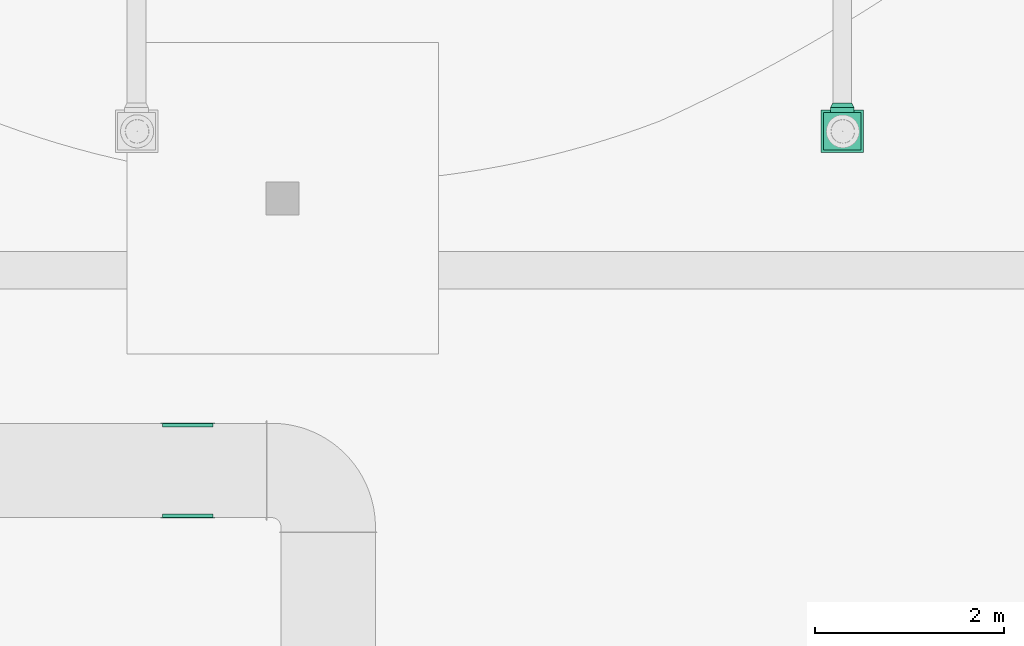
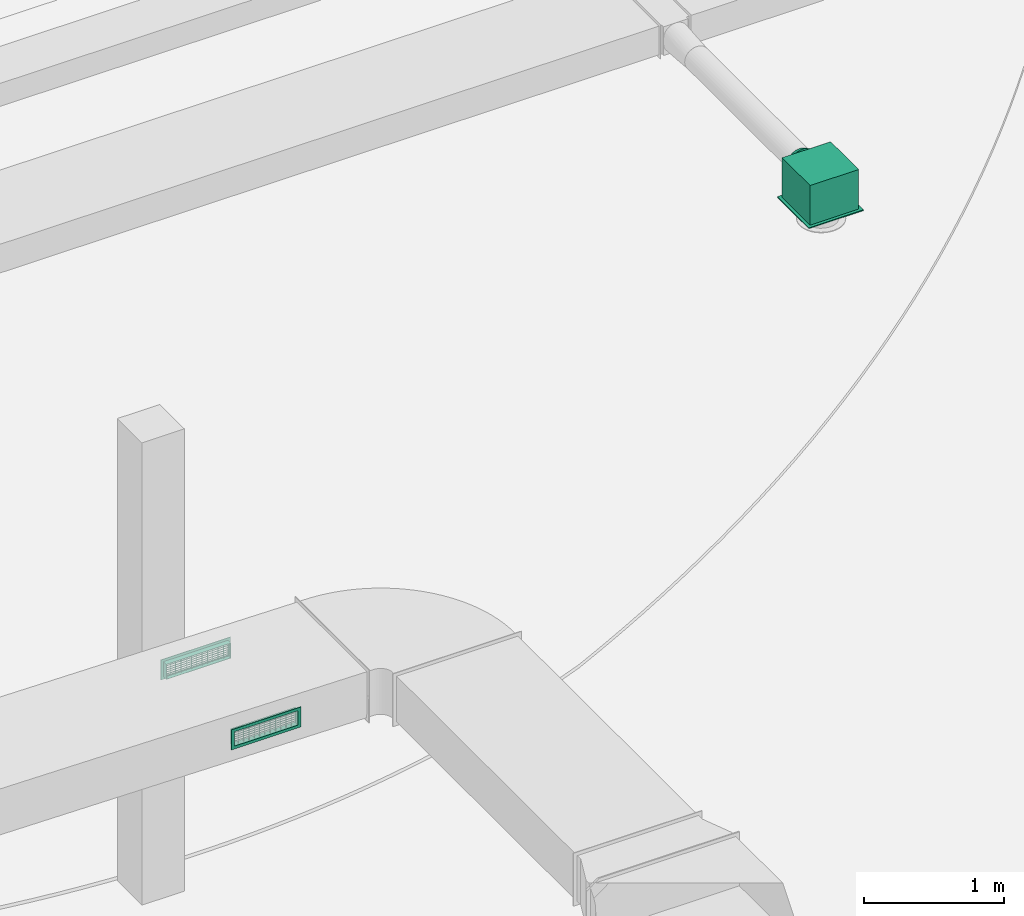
# One storey, part 273 of 302: 3 flow terminals, 1 flow fitting.
"""IFC2X3 building model written with IfcOpenShell, lengths in metres."""

import ifcopenshell
import ifcopenshell.guid

model = None  # the IFC model being written
_history = None  # IfcOwnerHistory: only IFC2X3 demands one
_inside = {}  # id of a spatial element -> (the spatial element, [elements in it])
_under = {}  # id of a project, library or spatial element -> (it, [spatial elements below it])
_declared = {}  # id of a project -> (the project, [libraries it declares])
_typed = {}  # id of a type object -> (the type object, [elements of that type])
_made_of = {}  # id of a material, layer set ... -> (it, [elements and type objects made of it])


def new_model(schema):
    """Start an empty IFC model of exactly this schema.

    Asked for "IFC4X3", IfcOpenShell would pick the latest addendum, in which some entities
    have other attributes; the version numbers below select the first issue.
    IFC2X3 requires an IfcOwnerHistory on every rooted entity: one is made here for all.
    """
    global model, _history
    if schema == "IFC4X3":
        model = ifcopenshell.file(schema_version=(4, 3, 0, 0))
    else:
        model = ifcopenshell.file(schema=schema)
    _inside.clear()
    _under.clear()
    _declared.clear()
    _typed.clear()
    _made_of.clear()
    _history = None
    if model.schema == "IFC2X3":
        org = make("IfcOrganization", Name="unknown")
        user = make(
            "IfcPersonAndOrganization",
            ThePerson=make("IfcPerson", FamilyName="unknown"),
            TheOrganization=org,
        )
        app = make(
            "IfcApplication",
            ApplicationDeveloper=org,
            Version="unknown",
            ApplicationFullName="unknown",
            ApplicationIdentifier="unknown",
        )
        _history = make(
            "IfcOwnerHistory",
            OwningUser=user,
            OwningApplication=app,
            ChangeAction="ADDED",
            CreationDate=0,
        )
    return model


def make(cls, **values):
    """One entity of the class cls with the attributes given. An attribute that is None is left unset."""
    return model.create_entity(
        cls, **{name: value for name, value in values.items() if value is not None}
    )


def entity(cls, *values):
    """Any entity or typed value of the class cls, its attributes in the order of the schema. None: left unset."""
    e = model.create_entity(cls)
    for i, value in enumerate(values):
        if value is not None:
            e[i] = value
    return e


def rooted(cls, **values):
    """An entity with a GlobalId (a new one), such as an element, a storey or a relation."""
    return make(cls, GlobalId=ifcopenshell.guid.new(), OwnerHistory=_history, **values)


def si_unit(unit_type, name, prefix=None):
    """IfcSIUnit, for example si_unit("LENGTHUNIT", "METRE", prefix="MILLI")."""
    return make("IfcSIUnit", UnitType=unit_type, Prefix=prefix, Name=name)


def converted_unit(unit_type, name, factor, base, dimensions=None, offset=None):
    """IfcConversionBasedUnit, such as the inch: factor (a typed value) times the base unit."""
    return make(
        "IfcConversionBasedUnit"
        if offset is None
        else "IfcConversionBasedUnitWithOffset",
        ConversionOffset=offset,
        Dimensions=None
        if dimensions is None
        else entity("IfcDimensionalExponents", *dimensions),
        UnitType=unit_type,
        Name=name,
        ConversionFactor=make(
            "IfcMeasureWithUnit", ValueComponent=factor, UnitComponent=base
        ),
    )


def derived_unit(unit_type, elements):
    """IfcDerivedUnit: a product of units, each with its exponent."""
    return make(
        "IfcDerivedUnit",
        Elements=[
            make("IfcDerivedUnitElement", Unit=unit, Exponent=power)
            for unit, power in elements
        ],
        UnitType=unit_type,
    )


def assignment(units):
    """IfcUnitAssignment: the units of a project."""
    return None if units is None else make("IfcUnitAssignment", Units=units)


def point(xyz):
    """IfcCartesianPoint."""
    return None if xyz is None else make("IfcCartesianPoint", Coordinates=xyz)


def direction(xyz):
    """IfcDirection."""
    return None if xyz is None else make("IfcDirection", DirectionRatios=xyz)


def frame(location, z_axis=None, x_axis=None):
    """IfcAxis2Placement3D, a coordinate frame: its origin and axes. An axis left out is left unset."""
    return make(
        "IfcAxis2Placement3D",
        Location=point(location),
        Axis=direction(z_axis),
        RefDirection=direction(x_axis),
    )


def frame_2d(location, x_axis=None):
    """IfcAxis2Placement2D, a coordinate frame in the plane: its origin and x axis."""
    return make(
        "IfcAxis2Placement2D", Location=point(location), RefDirection=direction(x_axis)
    )


def origin():
    """The frame at (0, 0, 0) with its axes left unset."""
    return frame((0.0, 0.0, 0.0))


def origin_2d_with_axis():
    """The frame at (0, 0) in the plane with the x axis (1, 0) written out."""
    return frame_2d((0.0, 0.0), x_axis=(1.0, 0.0))


def place(relative_to, where):
    """IfcLocalPlacement: puts the frame where relative to a parent placement (None: the world)."""
    return make(
        "IfcLocalPlacement", PlacementRelTo=relative_to, RelativePlacement=where
    )


def context(
    kind, dimensions, precision=None, world=None, true_north=None, identifier=None
):
    """IfcGeometricRepresentationContext, for example the 3D "Model" context."""
    return make(
        "IfcGeometricRepresentationContext",
        ContextIdentifier=identifier,
        ContextType=kind,
        CoordinateSpaceDimension=dimensions,
        Precision=precision,
        WorldCoordinateSystem=world,
        TrueNorth=true_north,
    )


def subcontext(parent, identifier, kind, view, scale=None):
    """IfcGeometricRepresentationSubContext, for example "Body" below "Model"."""
    return make(
        "IfcGeometricRepresentationSubContext",
        ContextIdentifier=identifier,
        ContextType=kind,
        ParentContext=parent,
        TargetScale=scale,
        TargetView=view,
    )


def project(units=None, contexts=None):
    """IfcProject with its units and contexts."""
    return rooted(
        "IfcProject",
        Name="project",
        RepresentationContexts=contexts,
        UnitsInContext=assignment(units),
    )


def spatial(cls, under=None, at=None, **own):
    """A site, building, storey or space (cls), placed at a placement, below another one or the project."""
    s = rooted(cls, ObjectPlacement=at, **own)
    if under is not None:
        _under.setdefault(under.id(), (under, []))[1].append(s)
    return s


def polyline(points):
    """IfcPolyline through the points."""
    return make("IfcPolyline", Points=[point(p) for p in points])


def circle_curve(where, radius):
    """IfcCircle in the frame where."""
    return make("IfcCircle", Position=where, Radius=radius)


def parameter(value):
    """IfcParameterValue: where a trimmed curve begins or ends, as a parameter of its basis curve."""
    return model.create_entity("IfcParameterValue", value)


def trimmed(basis, trim1, trim2, sense, master):
    """IfcTrimmedCurve: the piece of a basis curve between two trims."""
    return make(
        "IfcTrimmedCurve",
        BasisCurve=basis,
        Trim1=trim1,
        Trim2=trim2,
        SenseAgreement=sense,
        MasterRepresentation=master,
    )


def segment(curve, same_sense, transition):
    """IfcCompositeCurveSegment."""
    return make(
        "IfcCompositeCurveSegment",
        Transition=transition,
        SameSense=same_sense,
        ParentCurve=curve,
    )


def composite_curve(segments, self_intersect=None):
    """IfcCompositeCurve: segments joined end to end."""
    return make("IfcCompositeCurve", Segments=segments, SelfIntersect=self_intersect)


def profile(cls, at=None, kind="AREA", **sizes):
    """A parametric profile (cls). Its sizes go by their IFC names, for example OverallWidth=200.0."""
    return make(cls, ProfileType=kind, Position=at, **sizes)


def rectangle(**sizes):
    """IfcRectangleProfileDef."""
    return profile("IfcRectangleProfileDef", **sizes)


def circle(**sizes):
    """IfcCircleProfileDef."""
    return profile("IfcCircleProfileDef", **sizes)


def outline(outer, holes=None, kind="AREA"):
    """IfcArbitraryClosedProfileDef: a profile drawn as a closed curve; with holes, ...WithVoids."""
    if holes is None:
        return make("IfcArbitraryClosedProfileDef", ProfileType=kind, OuterCurve=outer)
    return make(
        "IfcArbitraryProfileDefWithVoids",
        ProfileType=kind,
        OuterCurve=outer,
        InnerCurves=holes,
    )


def extrude(swept, where, along, depth):
    """IfcExtrudedAreaSolid: the profile swept, set in the frame where, extruded along a direction by depth."""
    return make(
        "IfcExtrudedAreaSolid",
        SweptArea=swept,
        Position=where,
        ExtrudedDirection=direction(along),
        Depth=depth,
    )


def faces_of(points, faces, orient=None, outer=None):
    """IfcFace entities. A face is a list of loops; a loop is a list of indices into points, from 0.

    orient and outer hold one flag for each loop. By default every Orientation is true, the
    first loop of a face is its IfcFaceOuterBound and the others are IfcFaceBound.
    """
    made = []
    for i, loops in enumerate(faces):
        bounds = []
        for j, loop in enumerate(loops):
            is_outer = j == 0 if outer is None else outer[i][j]
            bounds.append(
                make(
                    "IfcFaceOuterBound" if is_outer else "IfcFaceBound",
                    Bound=make("IfcPolyLoop", Polygon=[points[k] for k in loop]),
                    Orientation=True if orient is None else orient[i][j],
                )
            )
        made.append(make("IfcFace", Bounds=bounds))
    return made


def faceted_brep(points, faces, orient=None, outer=None, voids=None):
    """IfcFacetedBrep: a solid bounded by flat faces; with voids (closed shells), ...WithVoids."""
    shared = [point(p) for p in points]
    hull = make("IfcClosedShell", CfsFaces=faces_of(shared, faces, orient, outer))
    if voids is None:
        return make("IfcFacetedBrep", Outer=hull)
    return make(
        "IfcFacetedBrepWithVoids",
        Outer=hull,
        Voids=[
            make(cls, CfsFaces=faces_of(shared, fs, o, b)) for cls, fs, o, b in voids
        ],
    )


def shape(context_of_items, identifier, shape_type, items):
    """IfcShapeRepresentation: the items that make up one representation, for example the "Body"."""
    return make(
        "IfcShapeRepresentation",
        ContextOfItems=context_of_items,
        RepresentationIdentifier=identifier,
        RepresentationType=shape_type,
        Items=items,
    )


def source(mapping_origin, context_of_items, identifier, shape_type, items):
    """IfcRepresentationMap: a shape defined once, which mapped items show again and again."""
    return make(
        "IfcRepresentationMap",
        MappingOrigin=mapping_origin,
        MappedRepresentation=shape(context_of_items, identifier, shape_type, items),
    )


def transform(
    local_origin,
    x_axis=None,
    y_axis=None,
    z_axis=None,
    scale=None,
    scale2=None,
    scale3=None,
    uniform=True,
):
    """IfcCartesianTransformationOperator3D, or its non-uniform kind. x_axis, y_axis, z_axis: its Axis1, 2, 3."""
    if uniform:
        return make(
            "IfcCartesianTransformationOperator3D",
            Axis1=direction(x_axis),
            Axis2=direction(y_axis),
            LocalOrigin=point(local_origin),
            Scale=scale,
            Axis3=direction(z_axis),
        )
    return make(
        "IfcCartesianTransformationOperator3DnonUniform",
        Axis1=direction(x_axis),
        Axis2=direction(y_axis),
        LocalOrigin=point(local_origin),
        Scale=scale,
        Axis3=direction(z_axis),
        Scale2=scale2,
        Scale3=scale3,
    )


def mapped(mapping_source, mapping_target):
    """IfcMappedItem: shows the shape of a source again, moved by a transform."""
    return make(
        "IfcMappedItem", MappingSource=mapping_source, MappingTarget=mapping_target
    )


def material(Name=None, Category=None):
    """IfcMaterial."""
    return make("IfcMaterial", Name=Name, Category=Category)


def material_list(materials):
    """IfcMaterialList."""
    return make("IfcMaterialList", Materials=materials)


def made_of(thing, what):
    """Note that an element or type object is made of a material, layer set ...; save() writes the relation."""
    if what is not None:
        _made_of.setdefault(what.id(), (what, []))[1].append(thing)
    return thing


def type_object(cls, material=None, **own):
    """A type object (cls), such as IfcWallType, which elements share."""
    return made_of(rooted(cls, **own), material)


def type_shapes(of_type, sources):
    """Give a type object the sources (RepresentationMaps) that its elements show as mapped items."""
    of_type.RepresentationMaps = sources


def element(
    cls,
    number,
    at=None,
    inside=None,
    cuts=None,
    type_object=None,
    material=None,
    context=None,
    identifier="Body",
    shape_type=None,
    held_by="IfcProductDefinitionShape",
    body=None,
    shapes=None,
    **own,
):
    """One element of the class cls, such as IfcWall. Its Tag is "e" and its number.

    at: its placement. inside: the storey or other place that contains it. cuts: it is an
    opening in that element (IfcRelVoidsElement). A single representation is given by context,
    identifier, shape_type and body (its items); several are given by shapes. held_by: the class
    of the entity that holds the representations. save() writes the other relations.
    """
    e = rooted(cls, Tag="e%d" % number, ObjectPlacement=at, **own)
    if body is not None:
        shapes = [shape(context, identifier, shape_type, body)]
    if shapes is not None:
        e.Representation = make(held_by, Representations=shapes)
    if inside is not None:
        _inside.setdefault(inside.id(), (inside, []))[1].append(e)
    if cuts is not None:
        rooted(
            "IfcRelVoidsElement", RelatingBuildingElement=cuts, RelatedOpeningElement=e
        )
    if type_object is not None:
        _typed.setdefault(type_object.id(), (type_object, []))[1].append(e)
    return made_of(e, material)


def aggregate(whole, parts):
    """IfcRelAggregates: a whole, such as a stair, and the parts it consists of."""
    return rooted("IfcRelAggregates", RelatingObject=whole, RelatedObjects=parts)


def save(model, path):
    """Write the relations noted so far, then the file.

    IfcRelAggregates (storeys below a building ...), IfcRelContainedInSpatialStructure (elements
    in a storey), IfcRelDefinesByType, IfcRelAssociatesMaterial and IfcRelDeclares: one each for
    every whole, place, type object, material and project.
    """
    for whole, parts in _under.values():
        aggregate(whole, parts)
    for where, things in _inside.values():
        rooted(
            "IfcRelContainedInSpatialStructure",
            RelatedElements=things,
            RelatingStructure=where,
        )
    for kind, things in _typed.values():
        rooted("IfcRelDefinesByType", RelatedObjects=things, RelatingType=kind)
    for what, things in _made_of.values():
        rooted("IfcRelAssociatesMaterial", RelatedObjects=things, RelatingMaterial=what)
    for by, libraries in _declared.values():
        rooted("IfcRelDeclares", RelatingContext=by, RelatedDefinitions=libraries)
    model.write(path)


model = new_model("IFC2X3")

# Units and contexts
model_context = context("Model", 3, precision=1e-05, world=origin(), true_north=direction((6.12303176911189e-17, 1.0)))
body_context = subcontext(model_context, "Body", "Model", "MODEL_VIEW")
ifc_project = project(units=[si_unit("LENGTHUNIT", "METRE"), si_unit("AREAUNIT", "SQUARE_METRE"), si_unit("VOLUMEUNIT", "CUBIC_METRE"), converted_unit("PLANEANGLEUNIT", "DEGREE", entity("IfcRatioMeasure", 0.0174532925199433), si_unit("PLANEANGLEUNIT", "RADIAN"), dimensions=[0, 0, 0, 0, 0, 0, 0]), si_unit("MASSUNIT", "GRAM", prefix="KILO"), derived_unit("MASSDENSITYUNIT", [(si_unit("MASSUNIT", "GRAM", prefix="KILO"), 1), (si_unit("LENGTHUNIT", "METRE"), -3)]), derived_unit("MOMENTOFINERTIAUNIT", [(si_unit("LENGTHUNIT", "METRE"), 4)]), si_unit("TIMEUNIT", "SECOND"), si_unit("FREQUENCYUNIT", "HERTZ"), si_unit("THERMODYNAMICTEMPERATUREUNIT", "DEGREE_CELSIUS"), derived_unit("THERMALTRANSMITTANCEUNIT", [(si_unit("MASSUNIT", "GRAM", prefix="KILO"), 1), (si_unit("THERMODYNAMICTEMPERATUREUNIT", "KELVIN"), -1), (si_unit("TIMEUNIT", "SECOND"), -3)]), derived_unit("VOLUMETRICFLOWRATEUNIT", [(si_unit("LENGTHUNIT", "METRE"), 3), (si_unit("TIMEUNIT", "SECOND"), -1)]), si_unit("ELECTRICCURRENTUNIT", "AMPERE"), si_unit("ELECTRICVOLTAGEUNIT", "VOLT"), si_unit("POWERUNIT", "WATT"), si_unit("FORCEUNIT", "NEWTON", prefix="KILO"), si_unit("ILLUMINANCEUNIT", "LUX"), si_unit("LUMINOUSFLUXUNIT", "LUMEN"), si_unit("LUMINOUSINTENSITYUNIT", "CANDELA"), derived_unit("USERDEFINED", [(si_unit("MASSUNIT", "GRAM", prefix="KILO"), -1), (si_unit("LENGTHUNIT", "METRE"), -2), (si_unit("TIMEUNIT", "SECOND"), 3), (si_unit("LUMINOUSFLUXUNIT", "LUMEN"), 1)]), derived_unit("LINEARVELOCITYUNIT", [(si_unit("LENGTHUNIT", "METRE"), 1), (si_unit("TIMEUNIT", "SECOND"), -1)]), si_unit("PRESSUREUNIT", "PASCAL"), derived_unit("USERDEFINED", [(si_unit("LENGTHUNIT", "METRE"), -2), (si_unit("MASSUNIT", "GRAM", prefix="KILO"), 1), (si_unit("TIMEUNIT", "SECOND"), -2)]), derived_unit("LINEARFORCEUNIT", [(si_unit("MASSUNIT", "GRAM", prefix="KILO"), 1), (si_unit("LENGTHUNIT", "METRE"), 1), (si_unit("TIMEUNIT", "SECOND"), -2), (si_unit("LENGTHUNIT", "METRE"), -1)]), derived_unit("PLANARFORCEUNIT", [(si_unit("MASSUNIT", "GRAM", prefix="KILO"), 1), (si_unit("LENGTHUNIT", "METRE"), 1), (si_unit("TIMEUNIT", "SECOND"), -2), (si_unit("LENGTHUNIT", "METRE"), -2)])], contexts=[model_context])

# Site, building, storey
site_placement = place(None, origin())
site = spatial("IfcSite", under=ifc_project, at=site_placement, Name="Default", CompositionType="ELEMENT")
building_placement = place(site_placement, origin())
building = spatial("IfcBuilding", under=site, at=building_placement, CompositionType="ELEMENT")
storey_placement = place(building_placement, frame((0.0, 0.0, -1.3)))
storey = spatial("IfcBuildingStorey", under=building, at=storey_placement, Name="00_EG", CompositionType="ELEMENT", Elevation=-1.3)

# Flow fitting
ifc_material = material(Name="<Unnamed>")
duct_fitting_type = type_object("IfcDuctFittingType", Name="STR_RND_Transition:STR_Transition_RND_GS_EA", PredefinedType="NOTDEFINED", material=ifc_material)
shared_shape_1 = source(origin(), body_context, "Body", "Brep", [
    faceted_brep([(0.0500000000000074, -0.073473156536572, -0.1011271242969), (0.0500000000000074, -0.0386271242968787, -0.118882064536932), (0.0500000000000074, 0.0, -0.12500000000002), (0.0500000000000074, 0.0386271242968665, -0.11888206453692), (0.0500000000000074, 0.073473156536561, -0.101127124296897), (0.0500000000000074, 0.101127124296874, -0.0734731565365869), (0.0500000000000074, 0.1188820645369, -0.038627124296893), (0.0500000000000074, 0.124999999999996, 0.0), (0.0500000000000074, 0.118882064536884, 0.0386271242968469), (0.0500000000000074, 0.101127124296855, 0.073473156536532), (0.0500000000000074, 0.0734731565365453, 0.101127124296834), (0.0500000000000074, 0.0386271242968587, 0.118882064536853), (0.0500000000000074, 0.0, 0.12499999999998), (0.0500000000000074, -0.0386271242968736, 0.118882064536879), (0.0500000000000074, -0.0734731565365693, 0.101127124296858), (0.0500000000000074, -0.101127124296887, 0.0734731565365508), (0.0500000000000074, -0.118882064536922, 0.0386271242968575), (0.0500000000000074, -0.125000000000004, 0.0), (0.0500000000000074, -0.118882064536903, -0.0386271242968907), (0.0500000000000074, -0.101127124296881, -0.0734731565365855), (0.0, 0.0309016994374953, -0.0951056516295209), (0.0, 0.0, -0.100000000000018), (0.0, -0.0309016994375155, -0.0951056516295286), (0.0, -0.0587785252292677, -0.0809016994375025), (0.0, -0.0809016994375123, -0.0587785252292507), (0.0, -0.0951056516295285, -0.0309016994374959), (0.0, -0.100000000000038, 0.0), (0.0, -0.0951056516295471, 0.0309016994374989), (0.0, -0.0809016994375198, 0.0587785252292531), (0.0, -0.058778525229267, 0.0809016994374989), (0.0, -0.0309016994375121, 0.0951056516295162), (0.0, 0.0, 0.0999999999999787), (0.0, 0.0309016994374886, 0.0951056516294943), (0.0, 0.0587785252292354, 0.0809016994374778), (0.0, 0.0809016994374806, 0.0587785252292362), (0.0, 0.0951056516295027, 0.0309016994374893), (0.0, 0.0999999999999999, 0.0), (0.0, 0.0951056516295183, -0.0309016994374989), (0.0, 0.0809016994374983, -0.0587785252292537), (0.0, 0.0587785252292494, -0.0809016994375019)], [[[0, 1, 2, 3, 4, 5, 6, 7, 8, 9, 10, 11, 12, 13, 14, 15, 16, 17, 18, 19]], [[20, 21, 22, 23, 24, 25, 26, 27, 28, 29, 30, 31, 32, 33, 34, 35, 36, 37, 38, 39]], [[35, 34, 9, 8]], [[36, 35, 8, 7]], [[34, 33, 10, 9]], [[10, 33, 32, 11]], [[11, 32, 31, 12]], [[30, 29, 14, 13]], [[31, 30, 13, 12]], [[29, 28, 15, 14]], [[15, 28, 27, 16]], [[16, 27, 26, 17]], [[25, 24, 19, 18]], [[26, 25, 18, 17]], [[24, 23, 0, 19]], [[0, 23, 22, 1]], [[1, 22, 21, 2]], [[20, 39, 4, 3]], [[21, 20, 3, 2]], [[39, 38, 5, 4]], [[5, 38, 37, 6]], [[6, 37, 36, 7]]]),
])
type_shapes(duct_fitting_type, [shared_shape_1])
flow_fitting_placement = place(storey_placement, frame((-241.004454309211, 36.4181484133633, 4.90999999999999), z_axis=(0.0, 0.0, 1.0), x_axis=(0.0, -1.0, 0.0)))
element("IfcFlowFitting", 1, at=flow_fitting_placement, inside=storey, type_object=duct_fitting_type, material=ifc_material, Name="STR_RND_Transition:STR_Transition_RND_GS_EA", ObjectType="STR_RND_Transition:STR_Transition_RND_GS_EA", context=body_context, shape_type="MappedRepresentation", body=[
    mapped(shared_shape_1, transform((0.0, 0.0, 0.0), scale=1.0)),
])

# Flow terminals
ifc_material_list_1 = material_list([ifc_material, ifc_material, ifc_material])
air_terminal_type_1 = type_object("IfcAirTerminalType", Name="Drallauslass Zuluft seitlich:600 quadratisch", PredefinedType="NOTDEFINED", material=ifc_material_list_1)
shared_shape_2 = source(origin(), body_context, "Body", "SweptSolid", [
    extrude(rectangle(XDim=0.450000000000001, YDim=0.449999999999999, at=origin_2d_with_axis()), frame((0.0, 0.0, 2.692), z_axis=(0.0, 0.0, 1.0), x_axis=(0.0, 1.0, 0.0)), (0.0, 0.0, 1.0), 0.00800000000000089),
    extrude(circle(Radius=0.125, at=frame_2d((1.22275294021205e-18, -5.41433564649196e-16), x_axis=(1.0, 0.0))), frame((-0.25, 0.0, 2.89500000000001), z_axis=(1.0, 0.0, 0.0), x_axis=(0.0, -1.0, 0.0)), (0.0, 0.0, 1.0), 0.0499999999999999),
    extrude(rectangle(XDim=0.4, YDim=0.399999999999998, at=origin_2d_with_axis()), frame((0.0, 0.0, 2.7), z_axis=(0.0, 0.0, 1.0), x_axis=(0.0, 1.0, 0.0)), (0.0, 0.0, 1.0), 0.345000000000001),
])
type_shapes(air_terminal_type_1, [shared_shape_2])
flow_terminal_placement = place(storey_placement, frame((-241.004454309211, 36.1181484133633, 2.01499999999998), z_axis=(0.0, 0.0, 1.0), x_axis=(0.0, -1.0, 0.0)))
element("IfcFlowTerminal", 2, at=flow_terminal_placement, inside=storey, type_object=air_terminal_type_1, material=ifc_material, Name="Drallauslass Zuluft seitlich:600 quadratisch", ObjectType="Drallauslass Zuluft seitlich:600 quadratisch", context=body_context, shape_type="MappedRepresentation", body=[
    mapped(shared_shape_2, transform((0.0, 0.0, 0.0), scale=1.0)),
])
ifc_material_list_2 = material_list([ifc_material, ifc_material, ifc_material, ifc_material, ifc_material, ifc_material, ifc_material, ifc_material, ifc_material, ifc_material, ifc_material, ifc_material, ifc_material, ifc_material, ifc_material, ifc_material, ifc_material, ifc_material, ifc_material])
air_terminal_type_2 = type_object("IfcAirTerminalType", Name="Kanallüftungsgitter Abluft:525 x 125", PredefinedType="NOTDEFINED", material=ifc_material_list_2)
shared_shape_3 = source(origin(), body_context, "Body", "SweptSolid", [
    extrude(outline(composite_curve([segment(polyline([(-0.00289554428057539, -0.00148147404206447), (0.00423714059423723, -0.00148147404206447)]), True, "CONTINUOUS"), segment(polyline([(0.00423714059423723, -0.00148147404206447), (-0.00134159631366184, 0.00296294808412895)]), True, "CONTINUOUS"), segment(trimmed(circle_curve(frame_2d((-0.00255940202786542, 0.000894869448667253), x_axis=(0.330047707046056, 0.943964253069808)), 0.0024), [parameter(348.779604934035)], [parameter(191.220395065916)], True, "PARAMETER"), True, "CONTINUOUS")], self_intersect=False)), frame((-0.0293780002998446, -0.2625, 0.0446428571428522), z_axis=(0.0, 1.0, 0.0), x_axis=(-0.943964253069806, 0.0, 0.330047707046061)), (0.0, 0.0, 1.0), 0.525),
    extrude(outline(composite_curve([segment(polyline([(-0.00289554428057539, -0.00148147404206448), (0.00423714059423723, -0.00148147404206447)]), True, "CONTINUOUS"), segment(polyline([(0.00423714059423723, -0.00148147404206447), (-0.00134159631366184, 0.00296294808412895)]), True, "CONTINUOUS"), segment(trimmed(circle_curve(frame_2d((-0.00255940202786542, 0.000894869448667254), x_axis=(0.330047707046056, 0.943964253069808)), 0.0024), [parameter(348.779604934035)], [parameter(191.220395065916)], True, "PARAMETER"), True, "CONTINUOUS")], self_intersect=False)), frame((-0.0293780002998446, -0.2625, 0.0267857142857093), z_axis=(0.0, 1.0, 0.0), x_axis=(-0.943964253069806, 0.0, 0.330047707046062)), (0.0, 0.0, 1.0), 0.525),
    extrude(outline(composite_curve([segment(polyline([(-0.00289554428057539, -0.00148147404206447), (0.00423714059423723, -0.00148147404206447)]), True, "CONTINUOUS"), segment(polyline([(0.00423714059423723, -0.00148147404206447), (-0.00134159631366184, 0.00296294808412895)]), True, "CONTINUOUS"), segment(trimmed(circle_curve(frame_2d((-0.00255940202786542, 0.000894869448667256), x_axis=(0.330047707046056, 0.943964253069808)), 0.0024), [parameter(348.779604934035)], [parameter(191.220395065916)], True, "PARAMETER"), True, "CONTINUOUS")], self_intersect=False)), frame((-0.0293780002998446, -0.2625, 0.00892857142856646), z_axis=(0.0, 1.0, 0.0), x_axis=(-0.943964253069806, 0.0, 0.330047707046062)), (0.0, 0.0, 1.0), 0.525),
    extrude(outline(composite_curve([segment(polyline([(-0.00289554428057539, -0.00148147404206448), (0.00423714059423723, -0.00148147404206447)]), True, "CONTINUOUS"), segment(polyline([(0.00423714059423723, -0.00148147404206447), (-0.00134159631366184, 0.00296294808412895)]), True, "CONTINUOUS"), segment(trimmed(circle_curve(frame_2d((-0.00255940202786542, 0.000894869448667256), x_axis=(0.330047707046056, 0.943964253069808)), 0.0024), [parameter(348.779604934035)], [parameter(191.220395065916)], True, "PARAMETER"), True, "CONTINUOUS")], self_intersect=False)), frame((-0.0293780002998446, -0.2625, -0.00892857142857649), z_axis=(0.0, 1.0, 0.0), x_axis=(-0.943964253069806, 0.0, 0.330047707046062)), (0.0, 0.0, 1.0), 0.525),
    extrude(outline(composite_curve([segment(polyline([(-0.00289554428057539, -0.00148147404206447), (0.00423714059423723, -0.00148147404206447)]), True, "CONTINUOUS"), segment(polyline([(0.00423714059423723, -0.00148147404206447), (-0.00134159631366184, 0.00296294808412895)]), True, "CONTINUOUS"), segment(trimmed(circle_curve(frame_2d((-0.00255940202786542, 0.000894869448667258), x_axis=(0.330047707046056, 0.943964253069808)), 0.0024), [parameter(348.779604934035)], [parameter(191.220395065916)], True, "PARAMETER"), True, "CONTINUOUS")], self_intersect=False)), frame((-0.0293780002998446, -0.2625, -0.0267857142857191), z_axis=(0.0, 1.0, 0.0), x_axis=(-0.943964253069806, 0.0, 0.330047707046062)), (0.0, 0.0, 1.0), 0.525),
    extrude(outline(composite_curve([segment(polyline([(-0.00289554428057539, -0.00148147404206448), (0.00423714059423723, -0.00148147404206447)]), True, "CONTINUOUS"), segment(polyline([(0.00423714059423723, -0.00148147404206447), (-0.00134159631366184, 0.00296294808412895)]), True, "CONTINUOUS"), segment(trimmed(circle_curve(frame_2d((-0.00255940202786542, 0.000894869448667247), x_axis=(0.330047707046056, 0.943964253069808)), 0.0024), [parameter(348.779604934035)], [parameter(191.220395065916)], True, "PARAMETER"), True, "CONTINUOUS")], self_intersect=False)), frame((-0.0293780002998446, -0.2625, -0.0446428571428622), z_axis=(0.0, 1.0, 0.0), x_axis=(-0.943964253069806, 0.0, 0.330047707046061)), (0.0, 0.0, 1.0), 0.525),
    extrude(outline(composite_curve([segment(trimmed(circle_curve(frame_2d((0.0, -0.00271133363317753), x_axis=(1.0, 0.0)), 0.0024), [parameter(168.779604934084)], [parameter(11.2203950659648)], True, "PARAMETER"), True, "CONTINUOUS"), segment(polyline([(0.00235412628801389, -0.00224433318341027), (0.0, 0.00448866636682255)]), True, "CONTINUOUS"), segment(polyline([(0.0, 0.00448866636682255), (-0.00235412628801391, -0.00224433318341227)]), True, "CONTINUOUS")], self_intersect=False)), frame((-0.0160446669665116, 0.218750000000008, -0.0625), z_axis=(0.0, 0.0, 1.0), x_axis=(0.0, 1.0, 0.0)), (0.0, 0.0, 1.0), 0.125),
    extrude(outline(composite_curve([segment(trimmed(circle_curve(frame_2d((0.0, -0.00271133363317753), x_axis=(1.0, 0.0)), 0.0024), [parameter(168.779604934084)], [parameter(11.2203950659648)], True, "PARAMETER"), True, "CONTINUOUS"), segment(polyline([(0.00235412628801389, -0.00224433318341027), (0.0, 0.00448866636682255)]), True, "CONTINUOUS"), segment(polyline([(0.0, 0.00448866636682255), (-0.00235412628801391, -0.00224433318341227)]), True, "CONTINUOUS")], self_intersect=False)), frame((-0.0160446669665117, 0.175000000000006, -0.0625), z_axis=(0.0, 0.0, 1.0), x_axis=(0.0, 1.0, 0.0)), (0.0, 0.0, 1.0), 0.125),
    extrude(outline(composite_curve([segment(trimmed(circle_curve(frame_2d((0.0, -0.00271133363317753), x_axis=(1.0, 0.0)), 0.0024), [parameter(168.779604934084)], [parameter(11.2203950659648)], True, "PARAMETER"), True, "CONTINUOUS"), segment(polyline([(0.00235412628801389, -0.00224433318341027), (0.0, 0.00448866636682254)]), True, "CONTINUOUS"), segment(polyline([(0.0, 0.00448866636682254), (-0.00235412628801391, -0.00224433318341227)]), True, "CONTINUOUS")], self_intersect=False)), frame((-0.0160446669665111, 0.131250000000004, -0.0625), z_axis=(0.0, 0.0, 1.0), x_axis=(0.0, 1.0, 0.0)), (0.0, 0.0, 1.0), 0.125),
    extrude(outline(composite_curve([segment(trimmed(circle_curve(frame_2d((0.0, -0.00271133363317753), x_axis=(1.0, 0.0)), 0.0024), [parameter(168.779604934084)], [parameter(11.2203950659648)], True, "PARAMETER"), True, "CONTINUOUS"), segment(polyline([(0.00235412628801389, -0.00224433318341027), (0.0, 0.00448866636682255)]), True, "CONTINUOUS"), segment(polyline([(0.0, 0.00448866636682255), (-0.0023541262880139, -0.00224433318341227)]), True, "CONTINUOUS")], self_intersect=False)), frame((-0.0160446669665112, 0.0875000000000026, -0.0624999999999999), z_axis=(0.0, 0.0, 1.0), x_axis=(0.0, 1.0, 0.0)), (0.0, 0.0, 1.0), 0.125),
    extrude(outline(composite_curve([segment(trimmed(circle_curve(frame_2d((0.0, -0.00271133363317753), x_axis=(1.0, 0.0)), 0.0024), [parameter(168.779604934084)], [parameter(11.2203950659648)], True, "PARAMETER"), True, "CONTINUOUS"), segment(polyline([(0.00235412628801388, -0.00224433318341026), (0.0, 0.00448866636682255)]), True, "CONTINUOUS"), segment(polyline([(0.0, 0.00448866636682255), (-0.00235412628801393, -0.00224433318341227)]), True, "CONTINUOUS")], self_intersect=False)), frame((-0.0160446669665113, 0.0437500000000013, -0.0624999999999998), z_axis=(0.0, 0.0, 1.0), x_axis=(0.0, 1.0, 0.0)), (0.0, 0.0, 1.0), 0.125),
    extrude(outline(composite_curve([segment(trimmed(circle_curve(frame_2d((0.0, -0.00271133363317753), x_axis=(1.0, 0.0)), 0.0024), [parameter(168.779604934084)], [parameter(11.2203950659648)], True, "PARAMETER"), True, "CONTINUOUS"), segment(polyline([(0.00235412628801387, -0.00224433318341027), (0.0, 0.00448866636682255)]), True, "CONTINUOUS"), segment(polyline([(0.0, 0.00448866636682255), (-0.00235412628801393, -0.00224433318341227)]), True, "CONTINUOUS")], self_intersect=False)), frame((-0.0160446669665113, 0.0, -0.0624999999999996), z_axis=(0.0, 0.0, 1.0), x_axis=(0.0, 1.0, 0.0)), (0.0, 0.0, 1.0), 0.125),
    extrude(outline(composite_curve([segment(trimmed(circle_curve(frame_2d((0.0, -0.00271133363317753), x_axis=(1.0, 0.0)), 0.0024), [parameter(168.779604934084)], [parameter(11.2203950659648)], True, "PARAMETER"), True, "CONTINUOUS"), segment(polyline([(0.00235412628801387, -0.00224433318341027), (0.0, 0.00448866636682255)]), True, "CONTINUOUS"), segment(polyline([(0.0, 0.00448866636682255), (-0.00235412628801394, -0.00224433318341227)]), True, "CONTINUOUS")], self_intersect=False)), frame((-0.0160446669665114, -0.0437499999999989, -0.0624999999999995), z_axis=(0.0, 0.0, 1.0), x_axis=(0.0, 1.0, 0.0)), (0.0, 0.0, 1.0), 0.125),
    extrude(outline(composite_curve([segment(trimmed(circle_curve(frame_2d((0.0, -0.00271133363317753), x_axis=(1.0, 0.0)), 0.0024), [parameter(168.779604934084)], [parameter(11.2203950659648)], True, "PARAMETER"), True, "CONTINUOUS"), segment(polyline([(0.00235412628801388, -0.00224433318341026), (0.0, 0.00448866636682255)]), True, "CONTINUOUS"), segment(polyline([(0.0, 0.00448866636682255), (-0.00235412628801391, -0.00224433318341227)]), True, "CONTINUOUS")], self_intersect=False)), frame((-0.0160446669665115, -0.0874999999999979, -0.0624999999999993), z_axis=(0.0, 0.0, 1.0), x_axis=(0.0, 1.0, 0.0)), (0.0, 0.0, 1.0), 0.125),
    extrude(outline(composite_curve([segment(trimmed(circle_curve(frame_2d((0.0, -0.00271133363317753), x_axis=(1.0, 0.0)), 0.0024), [parameter(168.779604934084)], [parameter(11.2203950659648)], True, "PARAMETER"), True, "CONTINUOUS"), segment(polyline([(0.00235412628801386, -0.00224433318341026), (0.0, 0.00448866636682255)]), True, "CONTINUOUS"), segment(polyline([(0.0, 0.00448866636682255), (-0.00235412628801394, -0.00224433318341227)]), True, "CONTINUOUS")], self_intersect=False)), frame((-0.0160446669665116, -0.131249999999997, -0.0624999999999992), z_axis=(0.0, 0.0, 1.0), x_axis=(0.0, 1.0, 0.0)), (0.0, 0.0, 1.0), 0.125),
    extrude(outline(composite_curve([segment(trimmed(circle_curve(frame_2d((0.0, -0.00271133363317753), x_axis=(1.0, 0.0)), 0.0024), [parameter(168.779604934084)], [parameter(11.2203950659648)], True, "PARAMETER"), True, "CONTINUOUS"), segment(polyline([(0.00235412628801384, -0.00224433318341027), (0.0, 0.00448866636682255)]), True, "CONTINUOUS"), segment(polyline([(0.0, 0.00448866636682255), (-0.00235412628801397, -0.00224433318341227)]), True, "CONTINUOUS")], self_intersect=False)), frame((-0.0160446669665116, -0.174999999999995, -0.062499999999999), z_axis=(0.0, 0.0, 1.0), x_axis=(0.0, 1.0, 0.0)), (0.0, 0.0, 1.0), 0.125),
    extrude(outline(composite_curve([segment(trimmed(circle_curve(frame_2d((0.0, -0.00271133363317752), x_axis=(1.0, 0.0)), 0.0024), [parameter(168.779604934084)], [parameter(11.2203950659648)], True, "PARAMETER"), True, "CONTINUOUS"), segment(polyline([(0.00235412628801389, -0.00224433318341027), (0.0, 0.00448866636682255)]), True, "CONTINUOUS"), segment(polyline([(0.0, 0.00448866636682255), (-0.00235412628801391, -0.00224433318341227)]), True, "CONTINUOUS")], self_intersect=False)), frame((-0.0160446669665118, -0.218749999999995, -0.0624999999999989), z_axis=(0.0, 0.0, 1.0), x_axis=(0.0, 1.0, 0.0)), (0.0, 0.0, 1.0), 0.125),
    extrude(outline(polyline([(-0.0665, -0.2665), (0.0665, -0.2665), (0.0665, 0.2665), (-0.0665, 0.2665), (-0.0665, -0.2665)]), holes=[polyline([(-0.0625000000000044, -0.2625), (-0.0625000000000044, 0.262499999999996), (0.062500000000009, 0.262499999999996), (0.062500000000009, -0.2625), (-0.0625000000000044, -0.2625)])]), frame((-0.04, 0.0, 0.0), z_axis=(1.0, 0.0, 0.0), x_axis=(0.0, 0.0, -1.0)), (0.0, 0.0, 1.0), 0.04),
    extrude(outline(polyline([(-0.0875, -0.2875), (0.0875, -0.2875), (0.0875, 0.2875), (-0.0875, 0.2875), (-0.0875, -0.2875)]), holes=[polyline([(-0.0625, -0.262499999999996), (-0.0625, 0.262500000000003), (0.0625000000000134, 0.262500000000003), (0.0625000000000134, -0.262499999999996), (-0.0625, -0.262499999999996)])]), frame((0.0, 0.0, 0.0), z_axis=(1.0, 0.0, 0.0), x_axis=(0.0, 0.0, -1.0)), (0.0, 0.0, 1.0), 0.005),
])
type_shapes(air_terminal_type_2, [shared_shape_3])
for number, where, z_axis, x_axis, name in (
    (3, (-247.940915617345, 32.0240784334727, 5.05), (0.0, 0.0, 1.0), (0.0, -1.0, 0.0), "Kanallüftungsgitter Abluft:525 x 125"),
    (4, (-247.940915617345, 33.0240784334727, 5.05), (0.0, 0.0, -1.0), (0.0, 1.0, 0.0), "Kanallüftungsgitter Abluft:525 x 125"),
):
    element("IfcFlowTerminal", number, at=place(storey_placement, frame(where, z_axis=z_axis, x_axis=x_axis)), inside=storey, type_object=air_terminal_type_2, material=ifc_material, Name=name, ObjectType="Kanallüftungsgitter Abluft:525 x 125", context=body_context, shape_type="MappedRepresentation", body=[
        mapped(shared_shape_3, transform((0.0, 0.0, 0.0), scale=1.0)),
    ])

save(model, "model.ifc")
